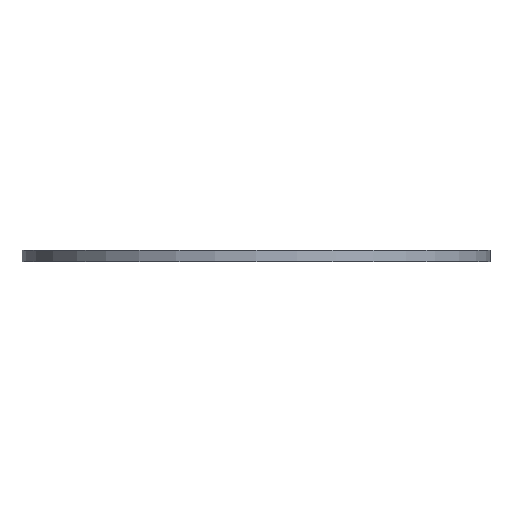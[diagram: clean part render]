
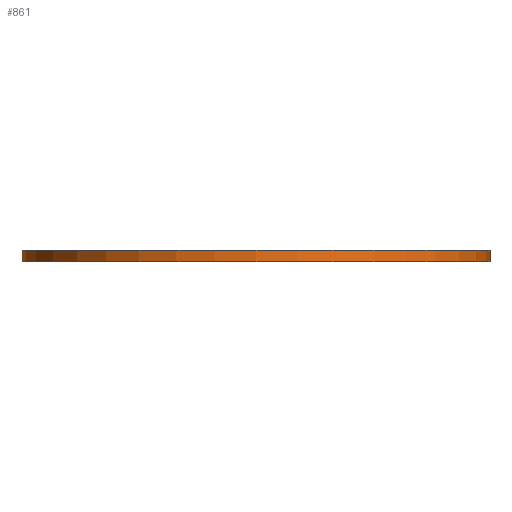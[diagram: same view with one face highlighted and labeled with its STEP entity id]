
A CAD part, front view. The second image highlights one B-rep face of the part: STEP entity #861.
In plain terms, the highlighted cylindrical face has radius 652.5 mm (diameter 1305 mm), a full revolution.
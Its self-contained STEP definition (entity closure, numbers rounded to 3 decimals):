
#104=FACE_OUTER_BOUND('',#136,.T.);
#136=EDGE_LOOP('',(#705,#706,#707,#708,#709,#710));
#226=LINE('',#1524,#256);
#256=VECTOR('',#1276,652.5);
#344=CIRCLE('',#1001,652.5);
#345=CIRCLE('',#1002,652.5);
#346=CIRCLE('',#1003,652.5);
#347=CIRCLE('',#1004,652.5);
#435=VERTEX_POINT('',#1519);
#436=VERTEX_POINT('',#1520);
#437=VERTEX_POINT('',#1523);
#438=VERTEX_POINT('',#1525);
#555=EDGE_CURVE('',#435,#436,#344,.T.);
#556=EDGE_CURVE('',#436,#435,#345,.T.);
#557=EDGE_CURVE('',#436,#437,#226,.T.);
#558=EDGE_CURVE('',#437,#438,#346,.T.);
#559=EDGE_CURVE('',#438,#437,#347,.T.);
#705=ORIENTED_EDGE('',*,*,#555,.F.);
#706=ORIENTED_EDGE('',*,*,#556,.F.);
#707=ORIENTED_EDGE('',*,*,#557,.T.);
#708=ORIENTED_EDGE('',*,*,#558,.T.);
#709=ORIENTED_EDGE('',*,*,#559,.T.);
#710=ORIENTED_EDGE('',*,*,#557,.F.);
#831=CYLINDRICAL_SURFACE('',#1000,652.5);
#861=ADVANCED_FACE('',(#104),#831,.T.);
#1000=AXIS2_PLACEMENT_3D('',#1518,#1270,#1271);
#1001=AXIS2_PLACEMENT_3D('',#1521,#1272,#1273);
#1002=AXIS2_PLACEMENT_3D('',#1522,#1274,#1275);
#1003=AXIS2_PLACEMENT_3D('',#1526,#1277,#1278);
#1004=AXIS2_PLACEMENT_3D('',#1527,#1279,#1280);
#1270=DIRECTION('center_axis',(0.,0.,1.));
#1271=DIRECTION('ref_axis',(1.,0.,0.));
#1272=DIRECTION('center_axis',(0.,0.,1.));
#1273=DIRECTION('ref_axis',(1.,0.,0.));
#1274=DIRECTION('center_axis',(0.,0.,1.));
#1275=DIRECTION('ref_axis',(1.,0.,0.));
#1276=DIRECTION('',(0.,0.,-1.));
#1277=DIRECTION('center_axis',(0.,0.,1.));
#1278=DIRECTION('ref_axis',(1.,0.,0.));
#1279=DIRECTION('center_axis',(0.,0.,1.));
#1280=DIRECTION('ref_axis',(1.,0.,0.));
#1518=CARTESIAN_POINT('Origin',(0.,0.,0.));
#1519=CARTESIAN_POINT('',(652.5,0.,32.));
#1520=CARTESIAN_POINT('',(-652.5,0.,32.));
#1521=CARTESIAN_POINT('Origin',(0.,0.,32.));
#1522=CARTESIAN_POINT('Origin',(0.,0.,32.));
#1523=CARTESIAN_POINT('',(-652.5,0.,0.));
#1524=CARTESIAN_POINT('',(-652.5,0.,0.));
#1525=CARTESIAN_POINT('',(652.5,0.,0.));
#1526=CARTESIAN_POINT('Origin',(0.,0.,0.));
#1527=CARTESIAN_POINT('Origin',(0.,0.,0.));
